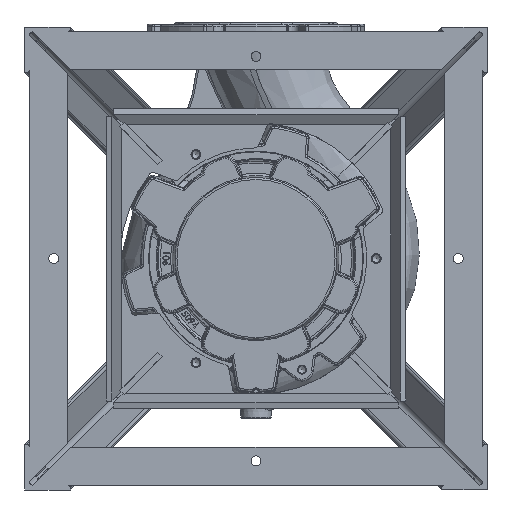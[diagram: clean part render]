
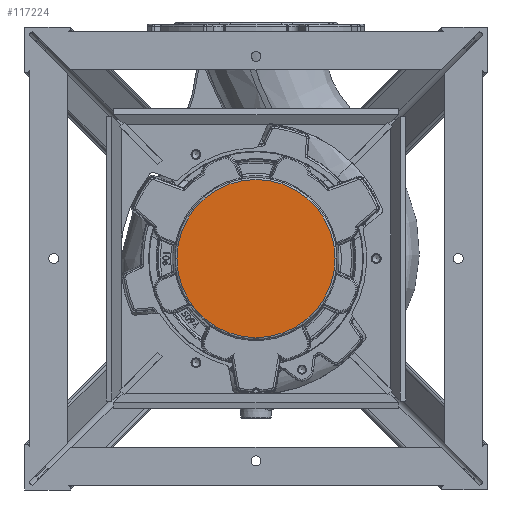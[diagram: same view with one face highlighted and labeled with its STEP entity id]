
A CAD part, front view. The second image highlights one B-rep face of the part: STEP entity #117224.
In plain terms, the highlighted planar face has unit normal (0, -1, 0).
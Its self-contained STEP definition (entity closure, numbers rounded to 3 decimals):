
#15459 = CARTESIAN_POINT ( 'NONE',  ( -103.628, -31., 0. ) ) ;
#18169 = DIRECTION ( 'NONE',  ( 0., -1., 0. ) ) ;
#18862 = VERTEX_POINT ( 'NONE', #15459 ) ;
#22411 = DIRECTION ( 'NONE',  ( -1., 0., 0. ) ) ;
#35353 = ORIENTED_EDGE ( 'NONE', *, *, #67836, .T. ) ;
#49233 = FACE_OUTER_BOUND ( 'NONE', #88580, .T. ) ;
#66122 = AXIS2_PLACEMENT_3D ( 'NONE', #70387, #88990, #22411 ) ;
#67836 = EDGE_CURVE ( 'NONE', #18862, #18862, #106196, .T. ) ;
#70387 = CARTESIAN_POINT ( 'NONE',  ( 0., -31., 0. ) ) ;
#88580 = EDGE_LOOP ( 'NONE', ( #35353 ) ) ;
#88990 = DIRECTION ( 'NONE',  ( 0., -1., 0. ) ) ;
#90474 = AXIS2_PLACEMENT_3D ( 'NONE', #95684, #18169, #124777 ) ;
#94874 = PLANE ( 'NONE',  #90474 ) ;
#95684 = CARTESIAN_POINT ( 'NONE',  ( 0., -31., 0. ) ) ;
#106196 = CIRCLE ( 'NONE', #66122, 103.628 ) ;
#117224 = ADVANCED_FACE ( 'NONE', ( #49233 ), #94874, .T. ) ;
#124777 = DIRECTION ( 'NONE',  ( 0., 0., 1. ) ) ;
